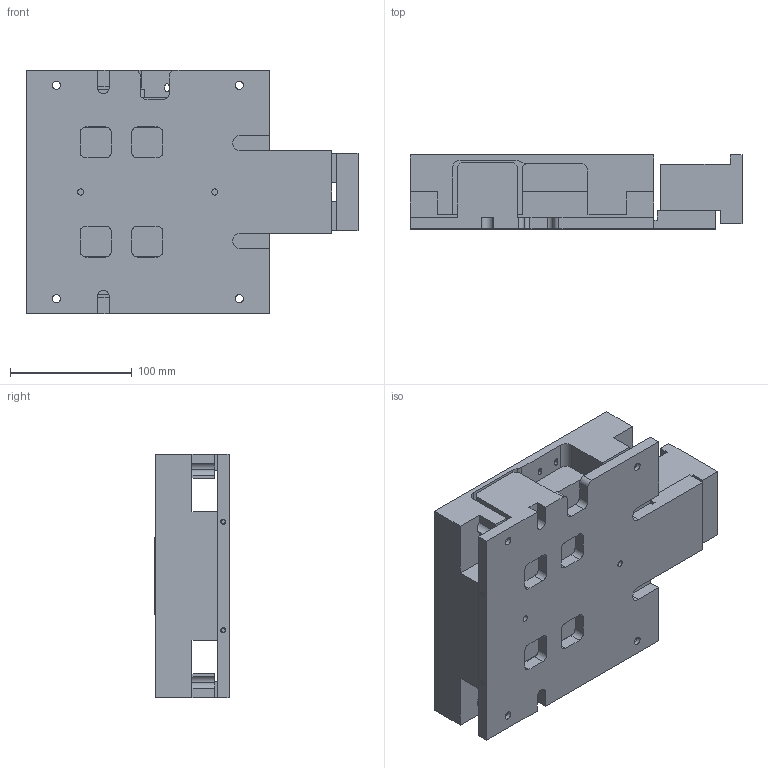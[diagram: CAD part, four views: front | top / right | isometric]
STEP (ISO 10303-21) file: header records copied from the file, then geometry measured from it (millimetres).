
FILE_DESCRIPTION((''),'2;1');
FILE_NAME('ZP200T01-DUMMY_ASM','2003-07-01T',('FKrakosh'),(''),'PRO/ENGINEER BY PARAMETRIC TECHNOLOGY CORPORATION, 2002310','PRO/ENGINEER BY PARAMETRIC TECHNOLOGY CORPORATION, 2002310','');
FILE_SCHEMA(('CONFIG_CONTROL_DESIGN'));
Length unit declared in the file: inch
Products named in the file (4): ZP200T01-BASE; ZP200T01-STD-MTR-BLK; ZP200T01-TOP; ZP200T01-DUMMY_ASM
Assembly tree (3 placements, depth 2):
  ZP200T01-DUMMY_ASM
    ZP200T01-BASE
    ZP200T01-STD-MTR-BLK
    ZP200T01-TOP
Bounding box: 272.42 x 60.82 x 200 mm (x, y, z)
Volume: 2129614.1 mm3; surface area: 285029.7 mm2
Topology: 3 solids, 25 shells, 385 faces, 985 edges, 624 vertices
Faces by surface type: cylinder 179, plane 170, cone 36
Entity records: 11691 total; most frequent: DIRECTION 2109, CARTESIAN_POINT 2010, ORIENTED_EDGE 1886, EDGE_CURVE 949, AXIS2_PLACEMENT_3D 766, VERTEX_POINT 624, VECTOR 577, LINE 577
